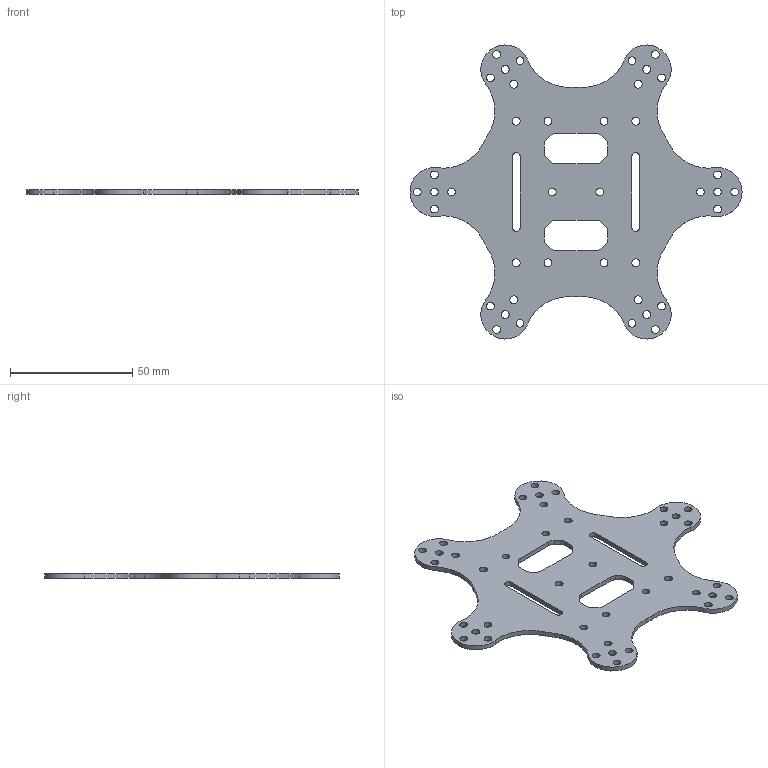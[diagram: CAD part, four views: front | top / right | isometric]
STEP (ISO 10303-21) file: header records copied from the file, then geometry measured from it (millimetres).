
FILE_DESCRIPTION(/* description */ (''),/* implementation_level */ '2;1');
FILE_NAME(/* name */ 'E:/云同步/我的坚果云/项目/SERVO DRIVER WITH ESP32/模型/D2 v1.step',/* time_stamp */ '2022-01-21T19:20:51+08:00',/* author */ (''),/* organization */ (''),/* preprocessor_version */ 'ST-DEVELOPER v18.1',/* originating_system */ 'Autodesk Translation Framework v10.10.0.1391',/* authorisation */ '');
FILE_SCHEMA (('AUTOMOTIVE_DESIGN { 1 0 10303 214 3 1 1 }'));
Length unit declared in the file: millimetre
Products named in the file (1): D2
Bounding box: 136 x 120.46 x 2 mm (x, y, z)
Volume: 15462.1 mm3; surface area: 17804.2 mm2
Topology: 1 solids, 1 shells, 106 faces, 312 edges, 208 vertices
Faces by surface type: cylinder 84, plane 22
Full cylindrical faces by diameter (mm): 3.2 x40
Entity records: 3833 total; most frequent: DIRECTION 694, CARTESIAN_POINT 627, ORIENTED_EDGE 624, EDGE_CURVE 312, AXIS2_PLACEMENT_3D 275, VERTEX_POINT 208, EDGE_LOOP 194, CIRCLE 168
